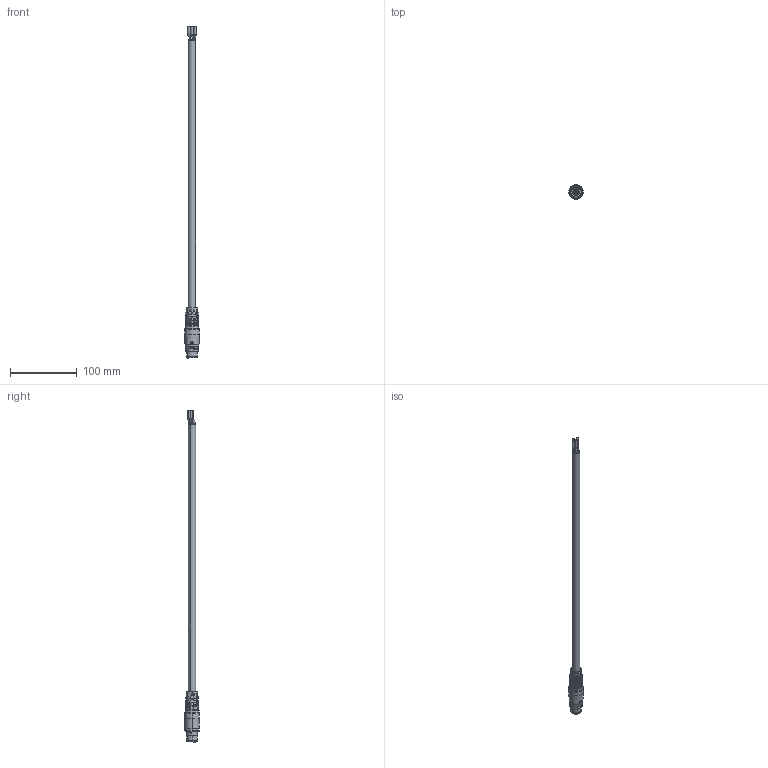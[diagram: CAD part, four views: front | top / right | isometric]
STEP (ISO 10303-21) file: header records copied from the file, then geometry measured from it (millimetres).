
FILE_DESCRIPTION (( 'STEP AP214' ), '1' );
FILE_NAME ('W-TEC 15K STI-GLATT 4x1,5_2,5.STEP', '2021-06-17T12:28:03', ( '' ), ( '' ), 'SwSTEP 2.0', 'SolidWorks 2021', '' );
FILE_SCHEMA (( 'AUTOMOTIVE_DESIGN' ));
Length unit declared in the file: millimetre
Products named in the file (1): W-TEC 15K STI-GLATT 4x1,5_2,5
Bounding box: 21.72 x 21.83 x 497.47 mm (x, y, z)
Surface area: 21971.3 mm2 (no closed solid volume)
Topology: 0 solids, 10 shells, 811 faces, 2272 edges, 1419 vertices
Faces by surface type: bspline 284, plane 214, cylinder 205, torus 72, cone 32, sphere 4
Entity records: 46401 total; most frequent: CARTESIAN_POINT 19425, ORIENTED_EDGE 4312, DIRECTION 3054, EDGE_CURVE 2184, VERTEX_POINT 1419, AXIS2_PLACEMENT_3D 1220, EDGE_LOOP 854, UNCERTAINTY_MEASURE_WITH_UNIT 813
